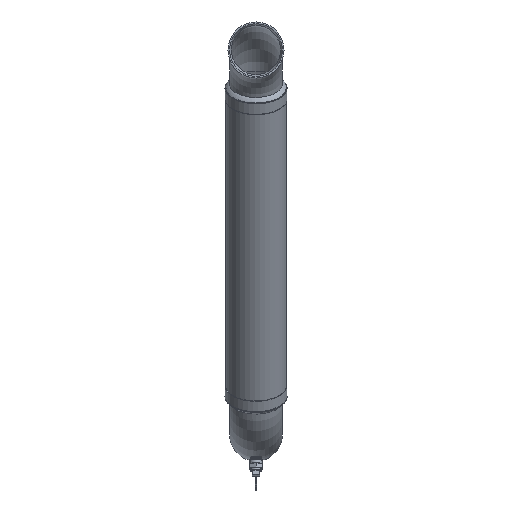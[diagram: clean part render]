
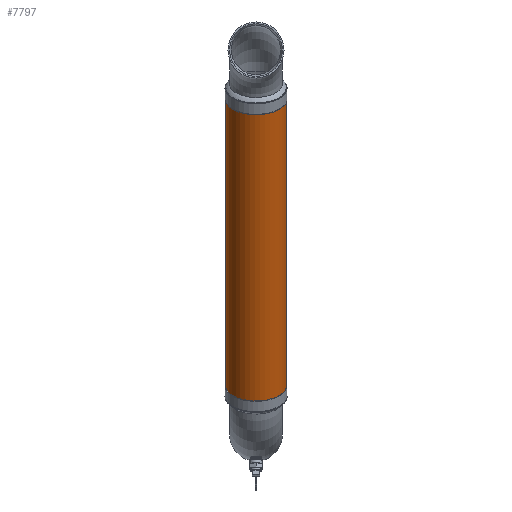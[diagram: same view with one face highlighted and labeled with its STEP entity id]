
A CAD part, front view. The second image highlights one B-rep face of the part: STEP entity #7797.
In plain terms, the highlighted cylindrical face has radius 60.35 mm (diameter 120.701 mm), a full revolution.
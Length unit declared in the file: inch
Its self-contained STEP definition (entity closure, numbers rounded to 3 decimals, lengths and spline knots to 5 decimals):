
#7770=CARTESIAN_POINT('',(0.0,0.0,0.0));
#7771=DIRECTION('',(0.0,0.0,1.0));
#7772=DIRECTION('',(-1.0,0.0,0.0));
#7773=AXIS2_PLACEMENT_3D('',#7770,#7771,#7772);
#7774=CYLINDRICAL_SURFACE('',#7773,2.376);
#7775=CARTESIAN_POINT('',(2.376,0.,27.848));
#7776=VERTEX_POINT('',#7775);
#7777=CARTESIAN_POINT('',(0.0,0.0,27.848));
#7778=DIRECTION('',(0.0,0.0,-1.0));
#7779=DIRECTION('',(-1.0,0.0,0.0));
#7780=AXIS2_PLACEMENT_3D('',#7777,#7778,#7779);
#7781=CIRCLE('',#7780,2.376);
#7782=EDGE_CURVE('',#7776,#7776,#7781,.T.);
#7783=ORIENTED_EDGE('',*,*,#7782,.T.);
#7784=EDGE_LOOP('',(#7783));
#7785=FACE_OUTER_BOUND('',#7784,.T.);
#7786=CARTESIAN_POINT('',(2.376,0.,0.0));
#7787=VERTEX_POINT('',#7786);
#7788=CARTESIAN_POINT('',(0.0,0.0,0.0));
#7789=DIRECTION('',(0.0,0.0,-1.0));
#7790=DIRECTION('',(-1.0,0.0,0.0));
#7791=AXIS2_PLACEMENT_3D('',#7788,#7789,#7790);
#7792=CIRCLE('',#7791,2.376);
#7793=EDGE_CURVE('',#7787,#7787,#7792,.T.);
#7794=ORIENTED_EDGE('',*,*,#7793,.F.);
#7795=EDGE_LOOP('',(#7794));
#7796=FACE_BOUND('',#7795,.T.);
#7797=ADVANCED_FACE('',(#7785,#7796),#7774,.T.);
